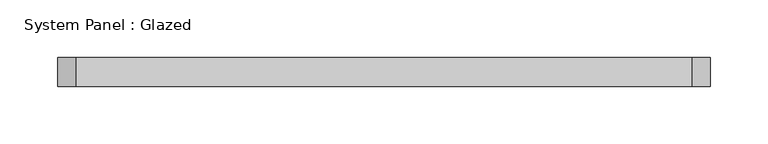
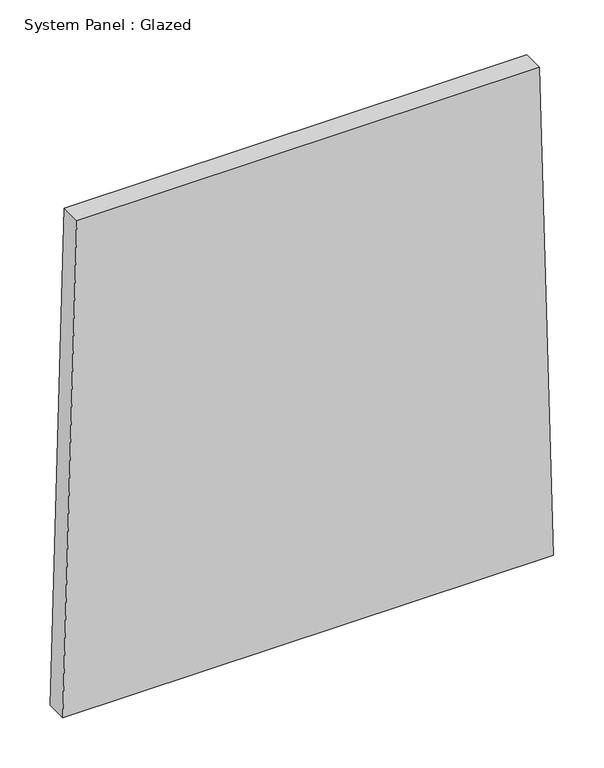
"""IFC4 building model written with IfcOpenShell, lengths in millimetres: plate geometry, System Panel : Glazed."""

from ifc_helpers import new_model, si_unit, frame, origin, place, context, project, spatial, polyline, outline, extrude, source, transform, mapped, element, save


def system_panel_glazed_b6e2143d(model_context):
    return source(origin(), model_context, "Body", "SweptSolid", [
        extrude(outline(polyline([(0.0, -282.8487193), (0.0, 282.8487193), (599.780392, 266.6166085), (599.780392, -266.6166085), (0.0, -282.8487193)])), frame((0.0, 24.5, 0.0), z_axis=(0.0, 1.0, 0.0), x_axis=(0.0, 0.0, 1.0)), (0.0, 0.0, 1.0), 25.0),
    ])


if __name__ == "__main__":
    model = new_model("IFC4")
    model_context = context("Model", 3, world=origin())
    ifc_project = project(units=[si_unit("LENGTHUNIT", "METRE", prefix="MILLI")], contexts=[model_context])
    site = spatial("IfcSite", under=ifc_project)
    building = spatial("IfcBuilding", under=site)
    placement = place(None, origin())
    system_panel_glazed_shape = system_panel_glazed_b6e2143d(model_context)
    element("IfcPlate", 1, ObjectType="System Panel : Glazed", at=placement, inside=building, context=model_context, shape_type="MappedRepresentation", body=[
        mapped(system_panel_glazed_shape, transform((0.0, 0.0, 0.0), x_axis=(1.0, 0.0, 0.0), y_axis=(0.0, 1.0, 0.0), z_axis=(0.0, 0.0, 1.0))),
    ])
    save(model, "model.ifc")
